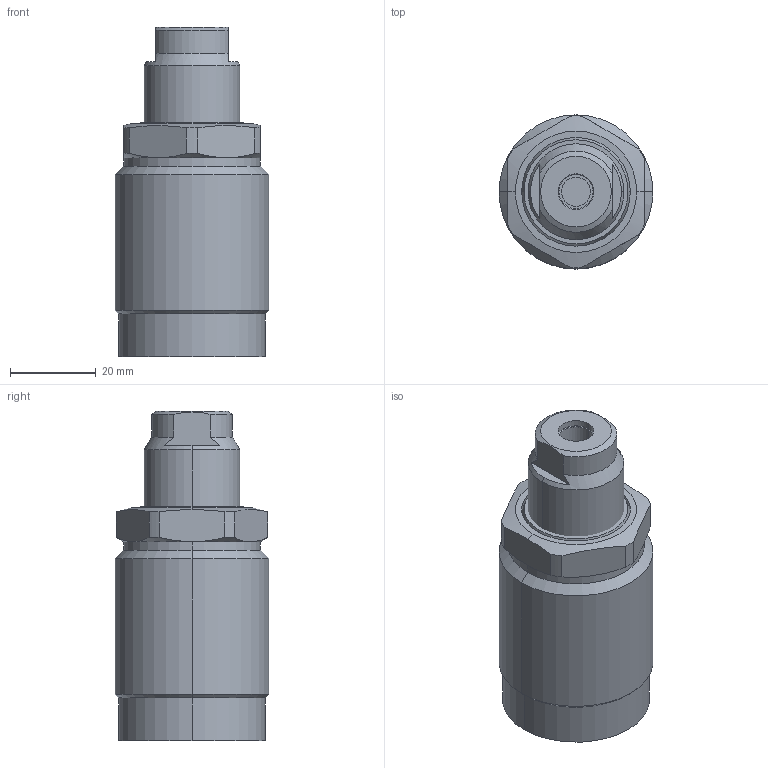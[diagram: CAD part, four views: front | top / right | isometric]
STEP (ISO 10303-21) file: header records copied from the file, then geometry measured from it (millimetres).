
FILE_DESCRIPTION (( 'STEP AP203' ), '1' );
FILE_NAME ('650361-AM.step', '2016-11-02T03:14:23', ( 'wxp' ), ( '' ), 'SwSTEP 2.0', 'SolidWorks 2011', '' );
FILE_SCHEMA (( 'CONFIG_CONTROL_DESIGN' ));
Length unit declared in the file: millimetre
Products named in the file (3): 葩璃 650361-AM.sldasm-Part-1^650361-AM; 650361-AM; 葩璃 650361-AM.sldasm-Part-2^650361-AM
Assembly tree (2 placements, depth 2):
  650361-AM
    葩璃 650361-AM.sldasm-Part-2^650361-AM
    葩璃 650361-AM.sldasm-Part-1^650361-AM
Bounding box: 36 x 36 x 77 mm (x, y, z)
Volume: 60257 mm3; surface area: 11355 mm2
Topology: 2 solids, 2 shells, 86 faces, 198 edges, 123 vertices
Faces by surface type: cylinder 34, plane 28, cone 18, torus 6
Entity records: 2841 total; most frequent: CARTESIAN_POINT 590, DIRECTION 438, ORIENTED_EDGE 392, EDGE_CURVE 196, AXIS2_PLACEMENT_3D 191, VERTEX_POINT 123, CIRCLE 100, EDGE_LOOP 95
